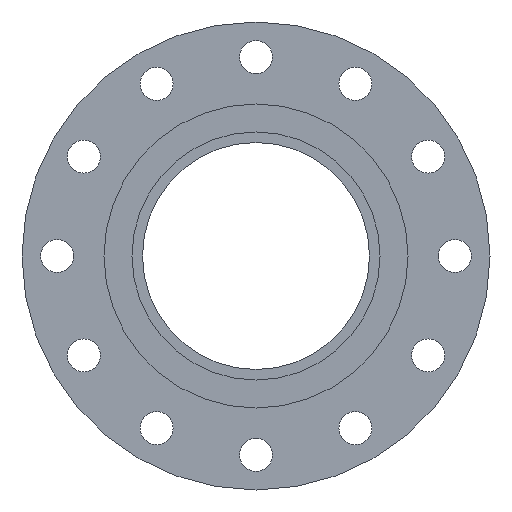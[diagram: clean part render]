
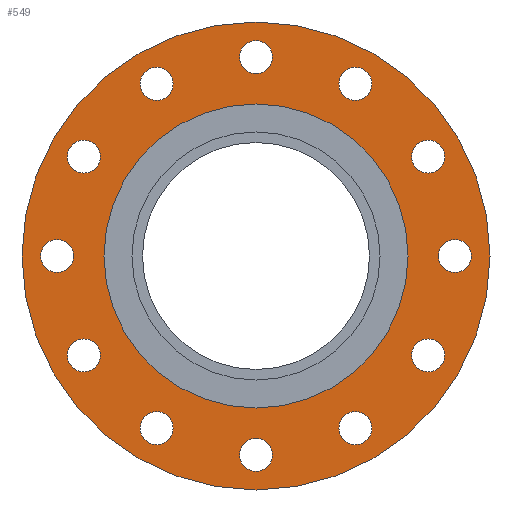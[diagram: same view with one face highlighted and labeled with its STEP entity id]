
A CAD part, left-side view. The second image highlights one B-rep face of the part: STEP entity #549.
In plain terms, the highlighted planar face has unit normal (-1, 0, 0).
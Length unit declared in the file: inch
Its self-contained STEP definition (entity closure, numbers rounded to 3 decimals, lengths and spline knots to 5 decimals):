
#14=FACE_BOUND('',#92,.T.);
#15=FACE_BOUND('',#93,.T.);
#16=FACE_BOUND('',#94,.T.);
#17=FACE_BOUND('',#95,.T.);
#18=FACE_BOUND('',#96,.T.);
#19=FACE_BOUND('',#97,.T.);
#20=FACE_BOUND('',#98,.T.);
#21=FACE_BOUND('',#99,.T.);
#22=FACE_BOUND('',#100,.T.);
#23=FACE_BOUND('',#101,.T.);
#24=FACE_BOUND('',#102,.T.);
#25=FACE_BOUND('',#103,.T.);
#26=FACE_BOUND('',#104,.T.);
#45=PLANE('',#623);
#65=FACE_OUTER_BOUND('',#91,.T.);
#91=EDGE_LOOP('',(#402,#403));
#92=EDGE_LOOP('',(#404));
#93=EDGE_LOOP('',(#405));
#94=EDGE_LOOP('',(#406));
#95=EDGE_LOOP('',(#407));
#96=EDGE_LOOP('',(#408));
#97=EDGE_LOOP('',(#409));
#98=EDGE_LOOP('',(#410));
#99=EDGE_LOOP('',(#411));
#100=EDGE_LOOP('',(#412));
#101=EDGE_LOOP('',(#413));
#102=EDGE_LOOP('',(#414));
#103=EDGE_LOOP('',(#415));
#104=EDGE_LOOP('',(#416,#417));
#174=CIRCLE('',#584,0.44);
#176=CIRCLE('',#587,0.44);
#178=CIRCLE('',#590,0.44);
#180=CIRCLE('',#593,0.44);
#182=CIRCLE('',#596,0.44);
#184=CIRCLE('',#599,0.44);
#186=CIRCLE('',#602,0.44);
#188=CIRCLE('',#605,0.44);
#190=CIRCLE('',#608,0.44);
#192=CIRCLE('',#611,0.44);
#194=CIRCLE('',#614,0.44);
#196=CIRCLE('',#617,0.44);
#197=CIRCLE('',#619,6.25);
#198=CIRCLE('',#620,6.25);
#201=CIRCLE('',#624,4.06);
#202=CIRCLE('',#625,4.06);
#226=VERTEX_POINT('',#841);
#228=VERTEX_POINT('',#847);
#230=VERTEX_POINT('',#853);
#232=VERTEX_POINT('',#859);
#234=VERTEX_POINT('',#865);
#236=VERTEX_POINT('',#871);
#238=VERTEX_POINT('',#877);
#240=VERTEX_POINT('',#883);
#242=VERTEX_POINT('',#889);
#244=VERTEX_POINT('',#895);
#246=VERTEX_POINT('',#901);
#248=VERTEX_POINT('',#907);
#249=VERTEX_POINT('',#911);
#250=VERTEX_POINT('',#912);
#253=VERTEX_POINT('',#921);
#254=VERTEX_POINT('',#922);
#279=EDGE_CURVE('',#226,#226,#174,.T.);
#282=EDGE_CURVE('',#228,#228,#176,.T.);
#285=EDGE_CURVE('',#230,#230,#178,.T.);
#288=EDGE_CURVE('',#232,#232,#180,.T.);
#291=EDGE_CURVE('',#234,#234,#182,.T.);
#294=EDGE_CURVE('',#236,#236,#184,.T.);
#297=EDGE_CURVE('',#238,#238,#186,.T.);
#300=EDGE_CURVE('',#240,#240,#188,.T.);
#303=EDGE_CURVE('',#242,#242,#190,.T.);
#306=EDGE_CURVE('',#244,#244,#192,.T.);
#309=EDGE_CURVE('',#246,#246,#194,.T.);
#312=EDGE_CURVE('',#248,#248,#196,.T.);
#313=EDGE_CURVE('',#249,#250,#197,.T.);
#314=EDGE_CURVE('',#250,#249,#198,.T.);
#318=EDGE_CURVE('',#253,#254,#201,.T.);
#319=EDGE_CURVE('',#254,#253,#202,.T.);
#402=ORIENTED_EDGE('',*,*,#313,.T.);
#403=ORIENTED_EDGE('',*,*,#314,.T.);
#404=ORIENTED_EDGE('',*,*,#279,.T.);
#405=ORIENTED_EDGE('',*,*,#282,.T.);
#406=ORIENTED_EDGE('',*,*,#285,.T.);
#407=ORIENTED_EDGE('',*,*,#288,.T.);
#408=ORIENTED_EDGE('',*,*,#291,.T.);
#409=ORIENTED_EDGE('',*,*,#294,.T.);
#410=ORIENTED_EDGE('',*,*,#297,.T.);
#411=ORIENTED_EDGE('',*,*,#300,.T.);
#412=ORIENTED_EDGE('',*,*,#303,.T.);
#413=ORIENTED_EDGE('',*,*,#306,.T.);
#414=ORIENTED_EDGE('',*,*,#309,.T.);
#415=ORIENTED_EDGE('',*,*,#312,.T.);
#416=ORIENTED_EDGE('',*,*,#318,.F.);
#417=ORIENTED_EDGE('',*,*,#319,.F.);
#549=ADVANCED_FACE('',(#65,#14,#15,#16,#17,#18,#19,#20,#21,#22,#23,#24,
#25,#26),#45,.T.);
#584=AXIS2_PLACEMENT_3D('',#843,#667,#668);
#587=AXIS2_PLACEMENT_3D('',#849,#674,#675);
#590=AXIS2_PLACEMENT_3D('',#855,#681,#682);
#593=AXIS2_PLACEMENT_3D('',#861,#688,#689);
#596=AXIS2_PLACEMENT_3D('',#867,#695,#696);
#599=AXIS2_PLACEMENT_3D('',#873,#702,#703);
#602=AXIS2_PLACEMENT_3D('',#879,#709,#710);
#605=AXIS2_PLACEMENT_3D('',#885,#716,#717);
#608=AXIS2_PLACEMENT_3D('',#891,#723,#724);
#611=AXIS2_PLACEMENT_3D('',#897,#730,#731);
#614=AXIS2_PLACEMENT_3D('',#903,#737,#738);
#617=AXIS2_PLACEMENT_3D('',#909,#744,#745);
#619=AXIS2_PLACEMENT_3D('',#913,#748,#749);
#620=AXIS2_PLACEMENT_3D('',#914,#750,#751);
#623=AXIS2_PLACEMENT_3D('',#920,#757,#758);
#624=AXIS2_PLACEMENT_3D('',#923,#759,#760);
#625=AXIS2_PLACEMENT_3D('',#924,#761,#762);
#667=DIRECTION('center_axis',(1.,0.,0.));
#668=DIRECTION('ref_axis',(0.,-0.5,0.866));
#674=DIRECTION('center_axis',(1.,0.,0.));
#675=DIRECTION('ref_axis',(0.,-0.866,0.5));
#681=DIRECTION('center_axis',(1.,0.,0.));
#682=DIRECTION('ref_axis',(0.,-1.,0.));
#688=DIRECTION('center_axis',(1.,0.,0.));
#689=DIRECTION('ref_axis',(0.,-0.866,-0.5));
#695=DIRECTION('center_axis',(1.,0.,0.));
#696=DIRECTION('ref_axis',(0.,-0.5,-0.866));
#702=DIRECTION('center_axis',(1.,0.,0.));
#703=DIRECTION('ref_axis',(0.,0.,-1.));
#709=DIRECTION('center_axis',(1.,0.,0.));
#710=DIRECTION('ref_axis',(0.,0.5,-0.866));
#716=DIRECTION('center_axis',(1.,0.,0.));
#717=DIRECTION('ref_axis',(0.,0.866,-0.5));
#723=DIRECTION('center_axis',(1.,0.,0.));
#724=DIRECTION('ref_axis',(0.,1.,0.));
#730=DIRECTION('center_axis',(1.,0.,0.));
#731=DIRECTION('ref_axis',(0.,0.866,0.5));
#737=DIRECTION('center_axis',(1.,0.,0.));
#738=DIRECTION('ref_axis',(0.,0.5,0.866));
#744=DIRECTION('center_axis',(1.,0.,0.));
#745=DIRECTION('ref_axis',(0.,0.,1.));
#748=DIRECTION('center_axis',(-1.,0.,0.));
#749=DIRECTION('ref_axis',(0.,0.,1.));
#750=DIRECTION('center_axis',(-1.,0.,0.));
#751=DIRECTION('ref_axis',(0.,0.,1.));
#757=DIRECTION('center_axis',(-1.,0.,0.));
#758=DIRECTION('ref_axis',(0.,0.,1.));
#759=DIRECTION('center_axis',(-1.,0.,0.));
#760=DIRECTION('ref_axis',(0.,0.,1.));
#761=DIRECTION('center_axis',(-1.,0.,0.));
#762=DIRECTION('ref_axis',(0.,0.,1.));
#841=CARTESIAN_POINT('',(-1.44,2.875,-4.97965));
#843=CARTESIAN_POINT('Origin',(-1.44,2.655,-4.59859));
#847=CARTESIAN_POINT('',(-1.44,4.97965,-2.875));
#849=CARTESIAN_POINT('Origin',(-1.44,4.59859,-2.655));
#853=CARTESIAN_POINT('',(-1.44,5.75,0.));
#855=CARTESIAN_POINT('Origin',(-1.44,5.31,0.));
#859=CARTESIAN_POINT('',(-1.44,4.97965,2.875));
#861=CARTESIAN_POINT('Origin',(-1.44,4.59859,2.655));
#865=CARTESIAN_POINT('',(-1.44,2.875,4.97965));
#867=CARTESIAN_POINT('Origin',(-1.44,2.655,4.59859));
#871=CARTESIAN_POINT('',(-1.44,0.,5.75));
#873=CARTESIAN_POINT('Origin',(-1.44,0.,5.31));
#877=CARTESIAN_POINT('',(-1.44,-2.875,4.97965));
#879=CARTESIAN_POINT('Origin',(-1.44,-2.655,4.59859));
#883=CARTESIAN_POINT('',(-1.44,-4.97965,2.875));
#885=CARTESIAN_POINT('Origin',(-1.44,-4.59859,2.655));
#889=CARTESIAN_POINT('',(-1.44,-5.75,0.));
#891=CARTESIAN_POINT('Origin',(-1.44,-5.31,0.));
#895=CARTESIAN_POINT('',(-1.44,-4.97965,-2.875));
#897=CARTESIAN_POINT('Origin',(-1.44,-4.59859,-2.655));
#901=CARTESIAN_POINT('',(-1.44,-2.875,-4.97965));
#903=CARTESIAN_POINT('Origin',(-1.44,-2.655,-4.59859));
#907=CARTESIAN_POINT('',(-1.44,0.,-5.75));
#909=CARTESIAN_POINT('Origin',(-1.44,0.,-5.31));
#911=CARTESIAN_POINT('',(-1.44,0.,6.25));
#912=CARTESIAN_POINT('',(-1.44,0.,-6.25));
#913=CARTESIAN_POINT('Origin',(-1.44,0.,0.));
#914=CARTESIAN_POINT('Origin',(-1.44,0.,0.));
#920=CARTESIAN_POINT('Origin',(-1.44,0.,5.155));
#921=CARTESIAN_POINT('',(-1.44,0.,4.06));
#922=CARTESIAN_POINT('',(-1.44,0.,-4.06));
#923=CARTESIAN_POINT('Origin',(-1.44,0.,0.));
#924=CARTESIAN_POINT('Origin',(-1.44,0.,0.));
